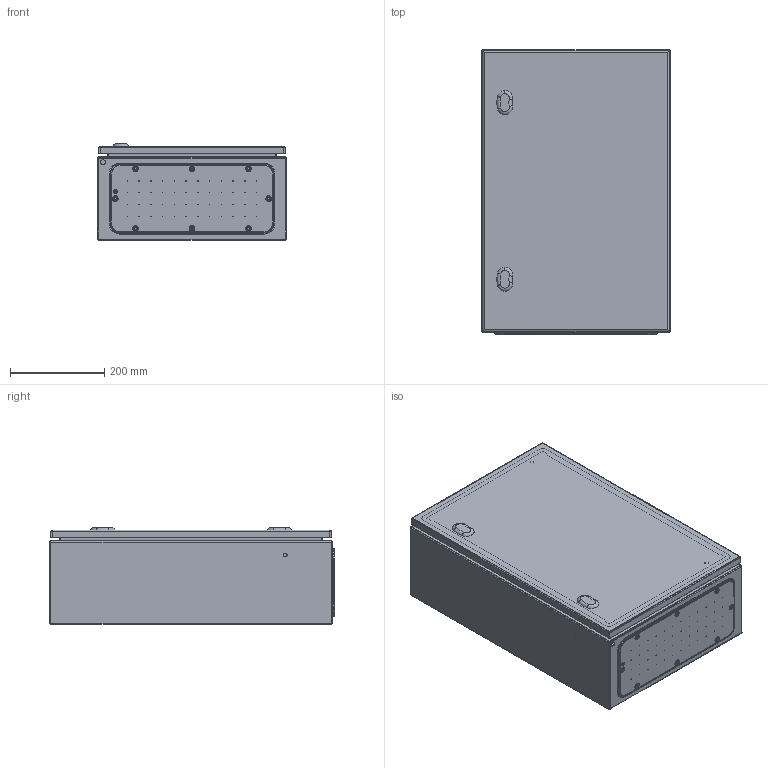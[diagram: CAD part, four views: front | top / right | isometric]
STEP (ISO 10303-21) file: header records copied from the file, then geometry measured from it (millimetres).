
FILE_DESCRIPTION (( 'STEP AP203' ), '1' );
FILE_NAME ('0400x0600x0200 dx.step', '2021-09-07T06:40:39', ( '' ), ( '' ), 'SwSTEP 2.0', 'SolidWorks 2021', '' );
FILE_SCHEMA (( 'CONFIG_CONTROL_DESIGN' ));
Length unit declared in the file: millimetre
Products named in the file (7): AR_ECOR_involucro_0400x0600x0200; AR_ECOR_montaggio_porta_singola_0400x0600; AR_ECOR_Piastra_09; AR_ECOR_flangia IC_04; 0400x0600x0200 dx; AR_ECOR_porta_singola_0400x0600; AR_ECOR_chiusura_std_STD
Assembly tree (7 placements, depth 3):
  0400x0600x0200 dx
    AR_ECOR_involucro_0400x0600x0200
    AR_ECOR_montaggio_porta_singola_0400x0600
      AR_ECOR_porta_singola_0400x0600
      AR_ECOR_chiusura_std_STD  x2
    AR_ECOR_flangia IC_04
    AR_ECOR_Piastra_09
Bounding box: 400 x 604 x 205 mm (x, y, z)
Volume: 1977725.8 mm3; surface area: 2362623.4 mm2
Topology: 6 solids, 6 shells, 769 faces, 1893 edges, 1194 vertices
Faces by surface type: cylinder 391, plane 228, cone 60, torus 46, bspline 28, sphere 16
Entity records: 24203 total; most frequent: CARTESIAN_POINT 4977, DIRECTION 4119, ORIENTED_EDGE 3668, EDGE_CURVE 1834, AXIS2_PLACEMENT_3D 1645, VERTEX_POINT 1168, EDGE_LOOP 988, CIRCLE 909
